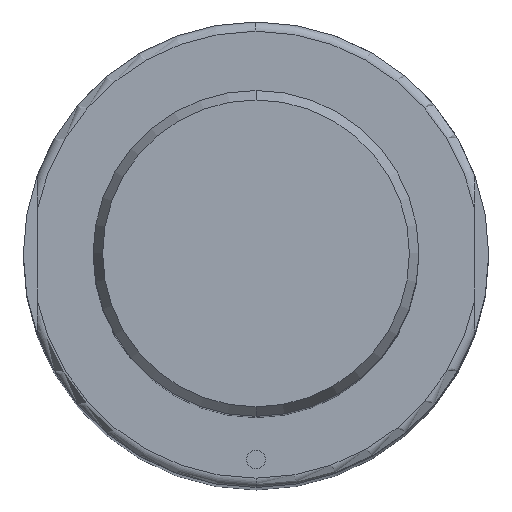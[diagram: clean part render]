
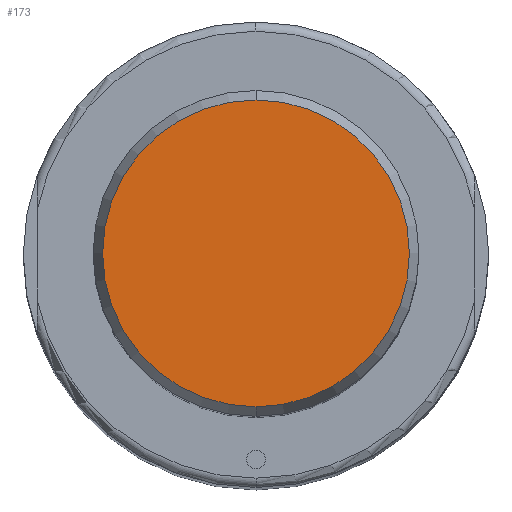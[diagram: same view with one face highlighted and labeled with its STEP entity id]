
A CAD part, top view. The second image highlights one B-rep face of the part: STEP entity #173.
In plain terms, the highlighted planar face has unit normal (0, 0, 1).
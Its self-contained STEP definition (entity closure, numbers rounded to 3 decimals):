
#124=PLANE('',#990);
#173=ADVANCED_FACE('',(#244),#124,.T.);
#244=FACE_OUTER_BOUND('',#297,.T.);
#297=EDGE_LOOP('',(#457,#458));
#364=CIRCLE('',#975,16.481);
#365=CIRCLE('',#977,16.481);
#457=ORIENTED_EDGE('',*,*,#758,.F.);
#458=ORIENTED_EDGE('',*,*,#759,.F.);
#677=VERTEX_POINT('',#1413);
#680=VERTEX_POINT('',#1418);
#758=EDGE_CURVE('',#680,#677,#364,.T.);
#759=EDGE_CURVE('',#677,#680,#365,.T.);
#975=AXIS2_PLACEMENT_3D('',#1419,#1109,#1110);
#977=AXIS2_PLACEMENT_3D('',#1421,#1113,#1114);
#990=AXIS2_PLACEMENT_3D('',#1444,#1143,#1144);
#1109=DIRECTION('',(0.,0.,-1.));
#1110=DIRECTION('',(-1.,0.,0.));
#1113=DIRECTION('',(0.,0.,-1.));
#1114=DIRECTION('',(1.,0.,0.));
#1143=DIRECTION('',(0.,0.,1.));
#1144=DIRECTION('',(0.,-1.,0.));
#1413=CARTESIAN_POINT('',(0.,-16.481,240.));
#1418=CARTESIAN_POINT('',(0.,16.481,240.));
#1419=CARTESIAN_POINT('',(0.,0.,240.));
#1421=CARTESIAN_POINT('',(0.,0.,240.));
#1444=CARTESIAN_POINT('',(0.,0.,240.));
